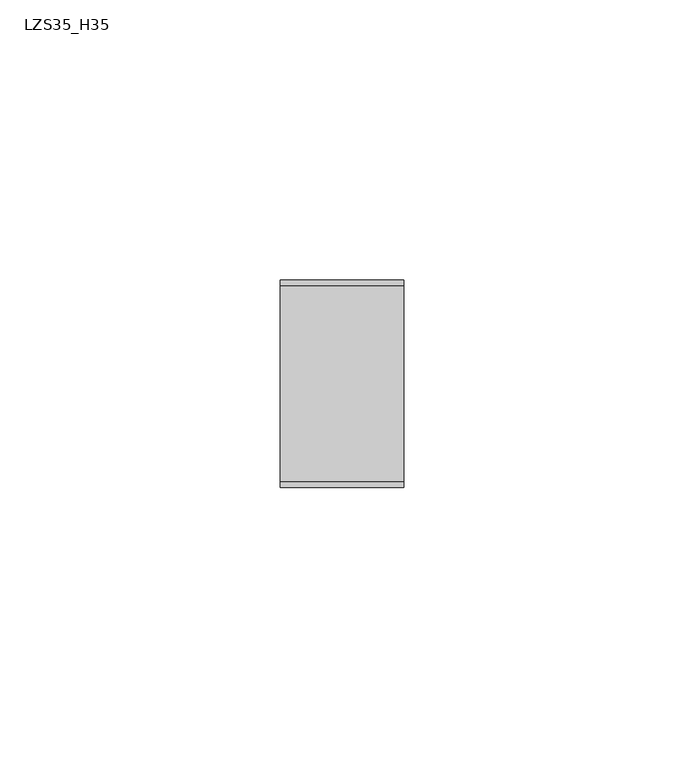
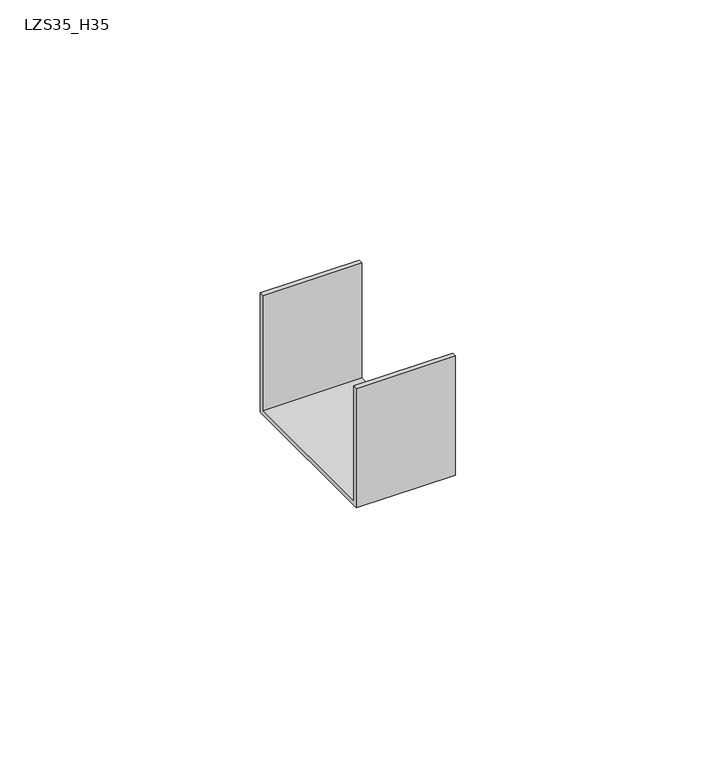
"""IFC4 building model written with IfcOpenShell, lengths in millimetres: cable carrier fitting geometry, BAKS_Snap-in connector_LZS : LZS35_H35."""

from ifc_helpers import new_model, si_unit, frame, origin, place, context, project, spatial, polyline, outline, extrude, source, transform, mapped, element, save


def lzs35_h35_88049798(model_context):
    return source(origin(), model_context, "Body", "SweptSolid", [
        extrude(outline(polyline([(18.5, 9.5), (18.5, -18.5), (-18.5, -18.5), (-18.5, 9.5), (-17.5, 9.5), (-17.5, -17.5), (17.5, -17.5), (17.5, 9.5), (18.5, 9.5)])), frame((-10.5, 0.0, 0.0), z_axis=(1.0, 0.0, 0.0), x_axis=(0.0, 1.0, 0.0)), (0.0, 0.0, 1.0), 22.0),
    ])


if __name__ == "__main__":
    model = new_model("IFC4")
    model_context = context("Model", 3, world=origin())
    ifc_project = project(units=[si_unit("LENGTHUNIT", "METRE", prefix="MILLI")], contexts=[model_context])
    site = spatial("IfcSite", under=ifc_project)
    building = spatial("IfcBuilding", under=site)
    placement = place(None, origin())
    lzs35_h35_shape = lzs35_h35_88049798(model_context)
    element("IfcCableCarrierFitting", 1, ObjectType="BAKS_Snap-in connector_LZS : LZS35_H35", at=placement, inside=building, context=model_context, shape_type="MappedRepresentation", body=[
        mapped(lzs35_h35_shape, transform((0.0, 0.0, 0.0), x_axis=(1.0, 0.0, 0.0), y_axis=(0.0, 1.0, 0.0), z_axis=(0.0, 0.0, 1.0))),
    ])
    save(model, "model.ifc")
